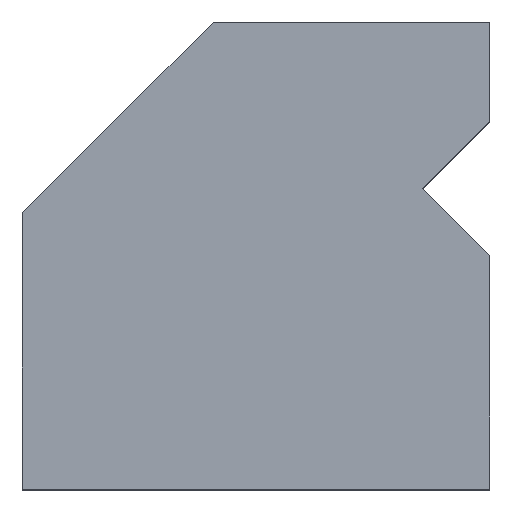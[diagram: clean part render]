
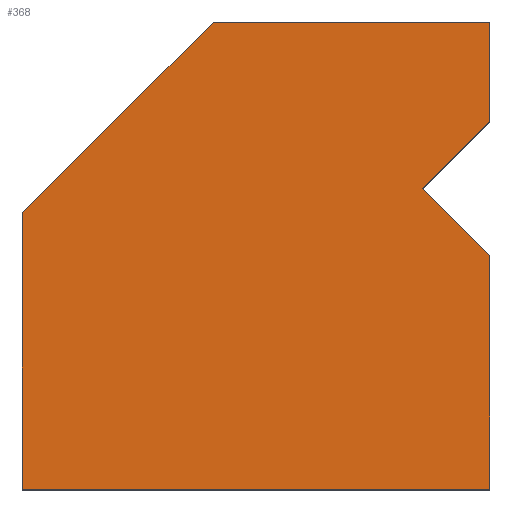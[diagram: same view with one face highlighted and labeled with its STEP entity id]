
A CAD part, top view. The second image highlights one B-rep face of the part: STEP entity #368.
In plain terms, the highlighted planar face has unit normal (0, 0, 1).
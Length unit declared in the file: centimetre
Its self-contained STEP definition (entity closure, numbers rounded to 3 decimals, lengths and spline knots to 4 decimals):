
#5 = CARTESIAN_POINT ( 'NONE',  ( 0., 0., 1000. ) ) ;
#9 = LINE ( 'NONE', #244, #411 ) ;
#27 = LINE ( 'NONE', #294, #412 ) ;
#39 = VERTEX_POINT ( 'NONE', #351 ) ;
#40 = EDGE_CURVE ( 'NONE', #505, #51, #101, .T. ) ;
#41 = CARTESIAN_POINT ( 'NONE',  ( 856.2201, 643.7799, 1000. ) ) ;
#45 = CARTESIAN_POINT ( 'NONE',  ( 0., 1000., 1000. ) ) ;
#46 = DIRECTION ( 'NONE',  ( 1., 0., 0. ) ) ;
#48 = DIRECTION ( 'NONE',  ( -1., 0., 0. ) ) ;
#51 = VERTEX_POINT ( 'NONE', #85 ) ;
#54 = EDGE_CURVE ( 'NONE', #116, #59, #241, .T. ) ;
#59 = VERTEX_POINT ( 'NONE', #336 ) ;
#69 = DIRECTION ( 'NONE',  ( -0.707, -0.707, 0. ) ) ;
#70 = EDGE_CURVE ( 'NONE', #379, #116, #254, .T. ) ;
#73 = VECTOR ( 'NONE', #438, 100. ) ;
#77 = VECTOR ( 'NONE', #121, 100. ) ;
#85 = CARTESIAN_POINT ( 'NONE',  ( 1000., 1000., 1000. ) ) ;
#101 = LINE ( 'NONE', #131, #77 ) ;
#109 = ORIENTED_EDGE ( 'NONE', *, *, #172, .T. ) ;
#116 = VERTEX_POINT ( 'NONE', #5 ) ;
#121 = DIRECTION ( 'NONE',  ( 0., 1., 0. ) ) ;
#131 = CARTESIAN_POINT ( 'NONE',  ( 1000., 1000., 1000. ) ) ;
#146 = VECTOR ( 'NONE', #248, 100. ) ;
#152 = ORIENTED_EDGE ( 'NONE', *, *, #54, .T. ) ;
#158 = CARTESIAN_POINT ( 'NONE',  ( 0., 591.669, 1000. ) ) ;
#161 = CARTESIAN_POINT ( 'NONE',  ( 1000., 500., 1000. ) ) ;
#162 = CARTESIAN_POINT ( 'NONE',  ( 0., 0., 1000. ) ) ;
#169 = ORIENTED_EDGE ( 'NONE', *, *, #236, .T. ) ;
#172 = EDGE_CURVE ( 'NONE', #51, #39, #9, .T. ) ;
#176 = DIRECTION ( 'NONE',  ( 0., 1., 0. ) ) ;
#189 = CARTESIAN_POINT ( 'NONE',  ( 1000., 500., 1000. ) ) ;
#198 = PLANE ( 'NONE',  #369 ) ;
#203 = LINE ( 'NONE', #41, #73 ) ;
#217 = CARTESIAN_POINT ( 'NONE',  ( 1000., 787.5599, 1000. ) ) ;
#230 = ORIENTED_EDGE ( 'NONE', *, *, #276, .T. ) ;
#231 = LINE ( 'NONE', #496, #510 ) ;
#236 = EDGE_CURVE ( 'NONE', #39, #379, #231, .T. ) ;
#241 = LINE ( 'NONE', #162, #146 ) ;
#244 = CARTESIAN_POINT ( 'NONE',  ( 0., 1000., 1000. ) ) ;
#248 = DIRECTION ( 'NONE',  ( 1., 0., 0. ) ) ;
#254 = LINE ( 'NONE', #45, #436 ) ;
#263 = ORIENTED_EDGE ( 'NONE', *, *, #40, .T. ) ;
#264 = LINE ( 'NONE', #189, #308 ) ;
#276 = EDGE_CURVE ( 'NONE', #375, #335, #264, .T. ) ;
#286 = FACE_OUTER_BOUND ( 'NONE', #347, .T. ) ;
#294 = CARTESIAN_POINT ( 'NONE',  ( 1000., 1000., 1000. ) ) ;
#304 = ORIENTED_EDGE ( 'NONE', *, *, #70, .T. ) ;
#308 = VECTOR ( 'NONE', #313, 100. ) ;
#311 = EDGE_CURVE ( 'NONE', #335, #505, #203, .T. ) ;
#313 = DIRECTION ( 'NONE',  ( -0.707, 0.707, 0. ) ) ;
#323 = CARTESIAN_POINT ( 'NONE',  ( 0., 0., 1000. ) ) ;
#335 = VERTEX_POINT ( 'NONE', #361 ) ;
#336 = CARTESIAN_POINT ( 'NONE',  ( 1000., 0., 1000. ) ) ;
#347 = EDGE_LOOP ( 'NONE', ( #492, #263, #109, #169, #304, #152, #501, #230 ) ) ;
#351 = CARTESIAN_POINT ( 'NONE',  ( 408.331, 1000., 1000. ) ) ;
#361 = CARTESIAN_POINT ( 'NONE',  ( 856.2201, 643.7799, 1000. ) ) ;
#368 = ADVANCED_FACE ( 'NONE', ( #286 ), #198, .T. ) ;
#369 = AXIS2_PLACEMENT_3D ( 'NONE', #323, #398, #46 ) ;
#375 = VERTEX_POINT ( 'NONE', #161 ) ;
#379 = VERTEX_POINT ( 'NONE', #158 ) ;
#398 = DIRECTION ( 'NONE',  ( 0., 0., 1. ) ) ;
#411 = VECTOR ( 'NONE', #48, 100. ) ;
#412 = VECTOR ( 'NONE', #176, 100. ) ;
#436 = VECTOR ( 'NONE', #482, 100. ) ;
#438 = DIRECTION ( 'NONE',  ( 0.707, 0.707, 0. ) ) ;
#471 = EDGE_CURVE ( 'NONE', #59, #375, #27, .T. ) ;
#482 = DIRECTION ( 'NONE',  ( 0., -1., 0. ) ) ;
#492 = ORIENTED_EDGE ( 'NONE', *, *, #311, .T. ) ;
#496 = CARTESIAN_POINT ( 'NONE',  ( -295.8345, 295.8345, 1000. ) ) ;
#501 = ORIENTED_EDGE ( 'NONE', *, *, #471, .T. ) ;
#505 = VERTEX_POINT ( 'NONE', #217 ) ;
#510 = VECTOR ( 'NONE', #69, 100. ) ;
